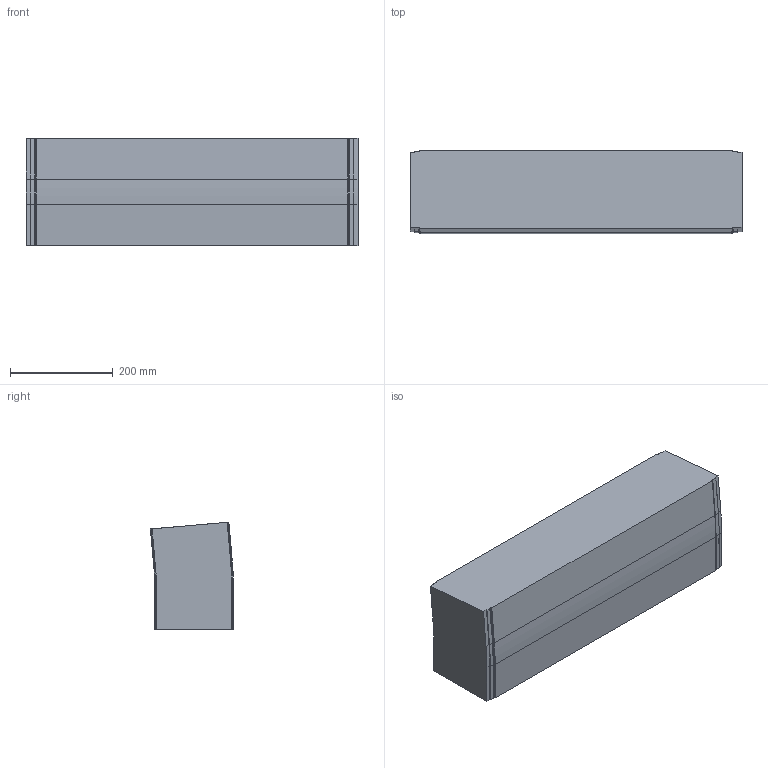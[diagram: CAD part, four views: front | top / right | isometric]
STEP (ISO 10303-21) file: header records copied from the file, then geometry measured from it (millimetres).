
FILE_DESCRIPTION (( 'STEP AP214' ), '1' );
FILE_NAME ('F2 2400 CV500 x.step', '2017-04-05T07:32:12', ( '' ), ( '' ), 'SwSTEP 2.0', 'SolidWorks 2015', '' );
FILE_SCHEMA (( 'AUTOMOTIVE_DESIGN' ));
Length unit declared in the file: millimetre
Products named in the file (1): F2 2400 CV500 x
Bounding box: 647 x 161.98 x 209.96 mm (x, y, z)
Volume: 20171816.6 mm3; surface area: 524967.4 mm2
Topology: 1 solids, 1 shells, 70 faces, 196 edges, 128 vertices
Faces by surface type: plane 44, cylinder 22, torus 4
Entity records: 2432 total; most frequent: CARTESIAN_POINT 395, ORIENTED_EDGE 392, DIRECTION 386, EDGE_CURVE 196, VECTOR 148, LINE 148, VERTEX_POINT 128, AXIS2_PLACEMENT_3D 119
